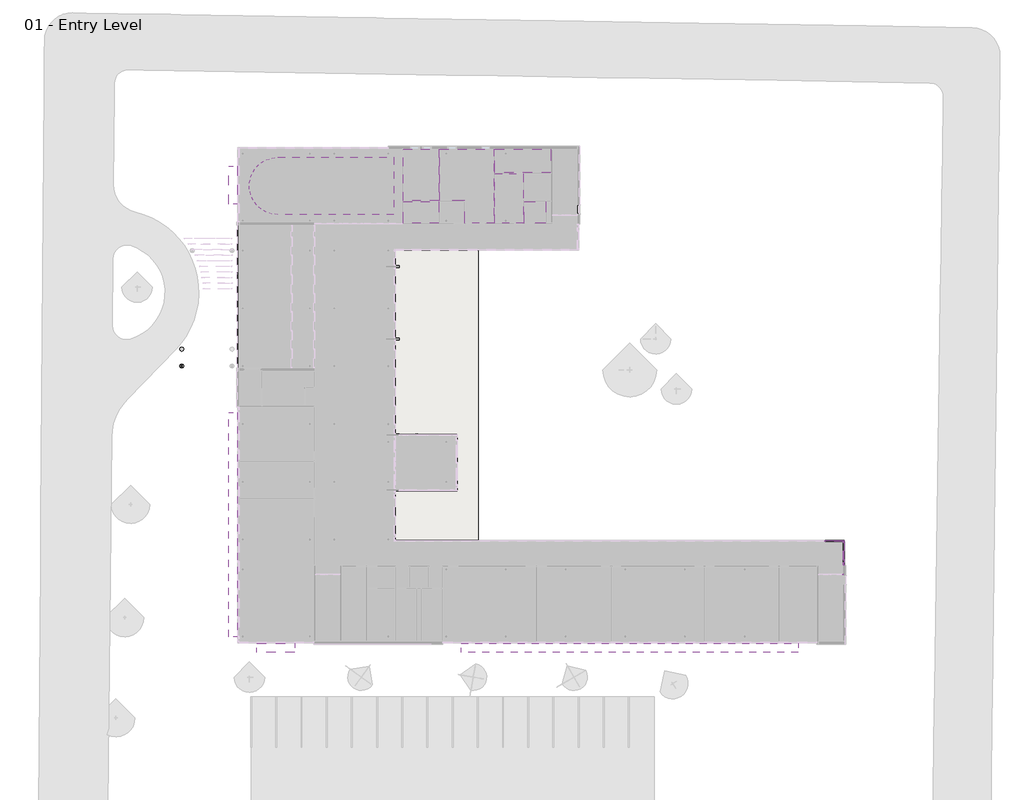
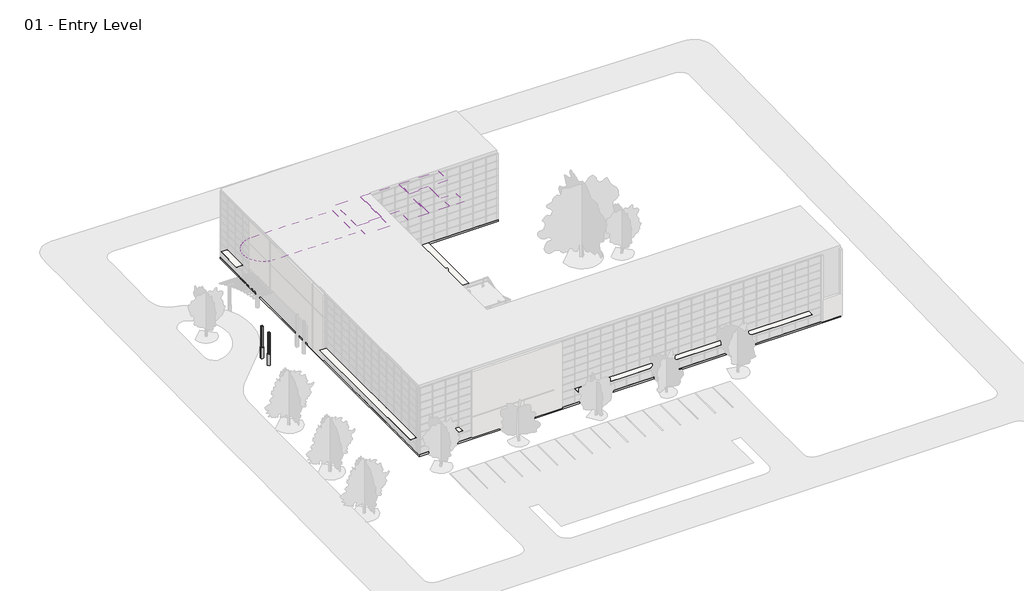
# One storey, part 32 of 34: 68 members, 27 plates, 7 coverings, 6 slabs, 4 columns.
"""IFC4 building model written with IfcOpenShell, lengths in millimetres."""

from ifc_helpers import new_model, si_unit, point, frame, frame_2d, origin, place, context, project, spatial, polyline, circle_curve, trimmed, segment, composite_curve, outline, extrude, transform, mapped, element, save
from components import column_5a4f3ead, member_6230916f, member_2b49869a, member_75074519, member_391b434c, member_81de2198, member_4eae0b13, member_9822c4e5, member_b50b2218, member_c327c56d, system_panel_glazed_d0ecad2d, system_panel_glazed_85a31dd6, system_panel_glazed_01db37db, system_panel_glazed_0a464ab8

model = new_model("IFC4")

# Units and contexts
model_context = context("Model", 3, world=origin())
ifc_project = project(units=[si_unit("LENGTHUNIT", "METRE", prefix="MILLI")], contexts=[model_context])

# Site, building, storey
site = spatial("IfcSite", under=ifc_project)
building = spatial("IfcBuilding", under=site)
storey = spatial("IfcBuildingStorey", under=building, Name="01 - Entry Level", Elevation=0.0)

# Columns
placement = place(None, origin())
column_shape = column_5a4f3ead(model_context)
element("IfcColumn", 1, ObjectType="Concrete-Round-Column1 : 18\"", at=placement, inside=storey, context=model_context, shape_type="MappedRepresentation", body=[
    mapped(column_shape, transform((-6018.8792524, 31909.0364163, 0.0), x_axis=(1.0, 0.0, 0.0), y_axis=(0.0, 1.0, 0.0), z_axis=(0.0, 0.0, 1.0))),
])
element("IfcColumn", 2, ObjectType="Concrete-Round-Column1 : 18\"", at=placement, inside=storey, context=model_context, shape_type="MappedRepresentation", body=[
    mapped(column_shape, transform((-6018.8792524, 30064.0, 0.0), x_axis=(1.0, 0.0, 0.0), y_axis=(0.0, 1.0, 0.0), z_axis=(0.0, 0.0, 1.0))),
])
element("IfcColumn", 3, ObjectType="W-Wide Flange-Column : W10X49", at=placement, inside=storey, context=model_context, shape_type="SweptSolid", body=[
    extrude(outline(composite_curve([segment(polyline([(-5891.8792524, 30190.7519531), (-5891.8792524, 30176.5636719), (-5997.001518, 30176.5636719)]), True, "CONTINUOUS"), segment(trimmed(circle_curve(frame_2d((-5997.001518, 30159.0019531)), 17.5617187), [point((-5997.001518, 30176.5636719))], [point((-6014.5632367, 30159.0019531))], True, "CARTESIAN"), True, "CONTINUOUS"), segment(polyline([(-6014.5632367, 30159.0019531), (-6014.5632367, 29968.9980469)]), True, "CONTINUOUS"), segment(trimmed(circle_curve(frame_2d((-5997.001518, 29968.9980469)), 17.5617188), [point((-6014.5632367, 29968.9980469))], [point((-5997.001518, 29951.4363281))], True, "CARTESIAN"), True, "CONTINUOUS"), segment(polyline([(-5997.001518, 29951.4363281), (-5891.8792524, 29951.4363281), (-5891.8792524, 29937.2480469), (-6145.8792524, 29937.2480469), (-6145.8792524, 29951.4363281), (-6040.7569867, 29951.4363281)]), True, "CONTINUOUS"), segment(trimmed(circle_curve(frame_2d((-6040.7569867, 29968.9980469)), 17.5617188), [point((-6040.7569867, 29951.4363281))], [point((-6023.195268, 29968.9980469))], True, "CARTESIAN"), True, "CONTINUOUS"), segment(polyline([(-6023.195268, 29968.9980469), (-6023.195268, 30159.0019531)]), True, "CONTINUOUS"), segment(trimmed(circle_curve(frame_2d((-6040.7569867, 30159.0019531)), 17.5617188), [point((-6023.195268, 30159.0019531))], [point((-6040.7569867, 30176.5636719))], True, "CARTESIAN"), True, "CONTINUOUS"), segment(polyline([(-6040.7569867, 30176.5636719), (-6145.8792524, 30176.5636719), (-6145.8792524, 30190.7519531), (-5891.8792524, 30190.7519531)]), True, "CONTINUOUS")], self_intersect=False)), frame((0.0, 0.0, 609.6), z_axis=(0.0, 0.0, 1.0), x_axis=(1.0, 0.0, 0.0)), (0.0, 0.0, 1.0), 3489.5619178),
])
element("IfcColumn", 4, ObjectType="W-Wide Flange-Column : W10X49", at=placement, inside=storey, context=model_context, shape_type="SweptSolid", body=[
    extrude(outline(composite_curve([segment(polyline([(-5891.8792524, 32035.7883694), (-5891.8792524, 32021.6000882), (-5997.001518, 32021.6000882)]), True, "CONTINUOUS"), segment(trimmed(circle_curve(frame_2d((-5997.001518, 32004.0383694)), 17.5617187), [point((-5997.001518, 32021.6000882))], [point((-6014.5632367, 32004.0383694))], True, "CARTESIAN"), True, "CONTINUOUS"), segment(polyline([(-6014.5632367, 32004.0383694), (-6014.5632367, 31814.0344632)]), True, "CONTINUOUS"), segment(trimmed(circle_curve(frame_2d((-5997.001518, 31814.0344632)), 17.5617188), [point((-6014.5632367, 31814.0344632))], [point((-5997.001518, 31796.4727444))], True, "CARTESIAN"), True, "CONTINUOUS"), segment(polyline([(-5997.001518, 31796.4727444), (-5891.8792524, 31796.4727444), (-5891.8792524, 31782.2844632), (-6145.8792524, 31782.2844632), (-6145.8792524, 31796.4727444), (-6040.7569867, 31796.4727444)]), True, "CONTINUOUS"), segment(trimmed(circle_curve(frame_2d((-6040.7569867, 31814.0344632)), 17.5617188), [point((-6040.7569867, 31796.4727444))], [point((-6023.195268, 31814.0344632))], True, "CARTESIAN"), True, "CONTINUOUS"), segment(polyline([(-6023.195268, 31814.0344632), (-6023.195268, 32004.0383694)]), True, "CONTINUOUS"), segment(trimmed(circle_curve(frame_2d((-6040.7569867, 32004.0383694)), 17.5617188), [point((-6023.195268, 32004.0383694))], [point((-6040.7569867, 32021.6000882))], True, "CARTESIAN"), True, "CONTINUOUS"), segment(polyline([(-6040.7569867, 32021.6000882), (-6145.8792524, 32021.6000882), (-6145.8792524, 32035.7883694), (-5891.8792524, 32035.7883694)]), True, "CONTINUOUS")], self_intersect=False)), frame((0.0, 0.0, 609.6), z_axis=(0.0, 0.0, 1.0), x_axis=(1.0, 0.0, 0.0)), (0.0, 0.0, 1.0), 3433.4391371),
])

# Coverings
element("IfcCovering", 5, ObjectType="2' x 2' ACT System", at=placement, inside=storey, context=model_context, shape_type="SweptSolid", body=[
    extrude(outline(polyline([(22086.2207476, 48110.7), (22086.2207476, 53724.1), (27979.0207476, 53724.1), (27979.0207476, 45672.3), (24829.4207476, 45672.3), (24829.4207476, 48110.7), (22086.2207476, 48110.7)])), frame((0.0, 0.0, 2438.4), z_axis=(0.0, 0.0, 1.0), x_axis=(1.0, 0.0, 0.0)), (0.0, 0.0, 1.0), 57.15),
])
element("IfcCovering", 6, ObjectType="2' x 2' ACT System", at=placement, inside=storey, context=model_context, shape_type="SweptSolid", body=[
    extrude(outline(polyline([(31192.1207476, 45672.3), (28106.0207476, 45672.3), (28106.0207476, 51019.0), (31192.1207476, 51019.0), (31192.1207476, 45672.3)])), frame((0.0, 0.0, 2438.4), z_axis=(0.0, 0.0, 1.0), x_axis=(1.0, 0.0, 0.0)), (0.0, 0.0, 1.0), 57.15),
])
element("IfcCovering", 7, ObjectType="2' x 2' ACT System", at=placement, inside=storey, context=model_context, shape_type="SweptSolid", body=[
    extrude(outline(polyline([(28106.0207476, 51146.0), (28106.0207476, 53724.1), (34202.0207476, 53724.1), (34202.0207476, 51146.0), (28106.0207476, 51146.0)])), frame((0.0, 0.0, 2438.4), z_axis=(0.0, 0.0, 1.0), x_axis=(1.0, 0.0, 0.0)), (0.0, 0.0, 1.0), 57.15),
])
element("IfcCovering", 8, ObjectType="2' x 2' ACT System", at=placement, inside=storey, context=model_context, shape_type="SweptSolid", body=[
    extrude(outline(polyline([(33630.5207476, 47983.7), (33630.5207476, 45672.3), (31319.1207476, 45672.3), (31319.1207476, 47983.7), (33630.5207476, 47983.7)])), frame((0.0, 0.0, 2438.4), z_axis=(0.0, 0.0, 1.0), x_axis=(1.0, 0.0, 0.0)), (0.0, 0.0, 1.0), 57.15),
])
element("IfcCovering", 9, ObjectType="2' x 2' ACT System", at=placement, inside=storey, context=model_context, shape_type="SweptSolid", body=[
    extrude(outline(composite_curve([segment(polyline([(4458.6207476, 52809.7), (17082.4207476, 52809.7), (17082.4207476, 46586.7), (4458.6207476, 46586.7)]), True, "CONTINUOUS"), segment(trimmed(circle_curve(frame_2d((4458.6207476, 49698.2)), 3111.5), [point((4458.6207476, 46586.7))], [point((4458.6207476, 52809.7))], False, "CARTESIAN"), True, "CONTINUOUS")], self_intersect=False)), frame((0.0, 0.0, 2438.4), z_axis=(0.0, 0.0, 1.0), x_axis=(1.0, 0.0, 0.0)), (0.0, 0.0, 1.0), 57.15),
])
element("IfcCovering", 10, ObjectType="GWB on Mtl. Stud", at=placement, inside=storey, context=model_context, shape_type="SweptSolid", body=[
    extrude(outline(polyline([(18123.8207476, 48110.7), (18123.8207476, 53724.1), (21959.2207476, 53724.1), (21959.2207476, 48110.7), (18123.8207476, 48110.7)])), frame((0.0, 0.0, 2438.4), z_axis=(0.0, 0.0, 1.0), x_axis=(1.0, 0.0, 0.0)), (0.0, 0.0, 1.0), 107.95),
])
element("IfcCovering", 11, ObjectType="GWB on Mtl. Stud", at=placement, inside=storey, context=model_context, shape_type="SweptSolid", body=[
    extrude(outline(polyline([(21959.2207476, 45672.3), (18123.8207476, 45672.3), (18123.8207476, 47983.7), (21959.2207476, 47983.7), (21959.2207476, 45672.3)])), frame((0.0, 0.0, 2438.4), z_axis=(0.0, 0.0, 1.0), x_axis=(1.0, 0.0, 0.0)), (0.0, 0.0, 1.0), 107.95),
])

# Members
member_shape = member_6230916f(model_context)
element("IfcMember", 12, ObjectType="L Corner Mullion : 5\" x 5\" Corner", at=placement, inside=storey, context=model_context, shape_type="MappedRepresentation", body=[
    mapped(member_shape, transform((66104.4207476, 11001.3, 0.0), x_axis=(0.0, 1.0, 0.0), y_axis=(1.0, 0.0, 0.0), z_axis=(0.0, 0.0, -1.0))),
])
element("IfcMember", 13, ObjectType="L Corner Mullion : 5\" x 5\" Corner", at=placement, inside=storey, context=model_context, shape_type="MappedRepresentation", body=[
    mapped(member_shape, transform((66104.4207476, 11001.3, 1219.2), x_axis=(0.0, 1.0, 0.0), y_axis=(1.0, 0.0, 0.0), z_axis=(0.0, 0.0, -1.0))),
])
element("IfcMember", 14, ObjectType="L Corner Mullion : 5\" x 5\" Corner", at=placement, inside=storey, context=model_context, shape_type="MappedRepresentation", body=[
    mapped(member_shape, transform((66104.4207476, 11001.3, 2438.4), x_axis=(0.0, 1.0, 0.0), y_axis=(1.0, 0.0, 0.0), z_axis=(0.0, 0.0, -1.0))),
])
element("IfcMember", 15, ObjectType="L Corner Mullion : 5\" x 5\" Corner", at=placement, inside=storey, context=model_context, shape_type="MappedRepresentation", body=[
    mapped(member_shape, transform((66104.4207476, 11001.3, 3657.6), x_axis=(0.0, 1.0, 0.0), y_axis=(1.0, 0.0, 0.0), z_axis=(0.0, 0.0, -1.0))),
])
element("IfcMember", 16, ObjectType="L Corner Mullion : 5\" x 5\" Corner", at=placement, inside=storey, context=model_context, shape_type="MappedRepresentation", body=[
    mapped(member_shape, transform((66104.4207476, 11001.3, 4876.8), x_axis=(0.0, 1.0, 0.0), y_axis=(1.0, 0.0, 0.0), z_axis=(0.0, 0.0, -1.0))),
])
element("IfcMember", 17, ObjectType="L Corner Mullion : 5\" x 5\" Corner", at=placement, inside=storey, context=model_context, shape_type="MappedRepresentation", body=[
    mapped(member_shape, transform((66104.4207476, 11001.3, 6096.0), x_axis=(0.0, 1.0, 0.0), y_axis=(1.0, 0.0, 0.0), z_axis=(0.0, 0.0, -1.0))),
])
element("IfcMember", 18, ObjectType="L Corner Mullion : 5\" x 5\" Corner", at=placement, inside=storey, context=model_context, shape_type="MappedRepresentation", body=[
    mapped(member_shape, transform((66104.4207476, 11001.3, 7315.2), x_axis=(0.0, 1.0, 0.0), y_axis=(1.0, 0.0, 0.0), z_axis=(0.0, 0.0, -1.0))),
])
element("IfcMember", 19, ObjectType="L Corner Mullion : 5\" x 5\" Corner", at=placement, inside=storey, context=model_context, shape_type="MappedRepresentation", body=[
    mapped(member_shape, transform((66104.4207476, 11001.3, 8534.4), x_axis=(0.0, 1.0, 0.0), y_axis=(1.0, 0.0, 0.0), z_axis=(0.0, 0.0, -1.0))),
])
element("IfcMember", 20, ObjectType="L Corner Mullion : 5\" x 5\" Corner", at=placement, inside=storey, context=model_context, shape_type="MappedRepresentation", body=[
    mapped(member_shape, transform((66104.4207476, 11001.3, 9753.6), x_axis=(0.0, 1.0, 0.0), y_axis=(1.0, 0.0, 0.0), z_axis=(0.0, 0.0, -1.0))),
])
member_2_shape = member_2b49869a(model_context)
element("IfcMember", 21, ObjectType="Rectangular Mullion : 2.5\" x 5\" rectangular", at=placement, inside=storey, context=model_context, shape_type="MappedRepresentation", body=[
    mapped(member_2_shape, transform((64072.4207476, 11001.3, 9753.6), x_axis=(-1.0, 0.0, 0.0), y_axis=(0.0, 1.0, 0.0), z_axis=(0.0, 0.0, -1.0))),
])
element("IfcMember", 22, ObjectType="Rectangular Mullion : 2.5\" x 5\" rectangular", at=placement, inside=storey, context=model_context, shape_type="MappedRepresentation", body=[
    mapped(member_2_shape, transform((66104.4207476, 8969.3, 9753.6), x_axis=(0.0, 1.0, 0.0), y_axis=(1.0, 0.0, 0.0), z_axis=(0.0, 0.0, -1.0))),
])
member_3_shape = member_75074519(model_context)
element("IfcMember", 23, ObjectType="Rectangular Mullion : 2.5\" x 5\" rectangular", at=placement, inside=storey, context=model_context, shape_type="MappedRepresentation", body=[
    mapped(member_3_shape, transform((66104.4207476, 8334.3, 10972.8), x_axis=(0.0, -1.0, 0.0), y_axis=(1.0, 0.0, 0.0), z_axis=(0.0, 0.0, 1.0))),
])
member_4_shape = member_391b434c(model_context)
element("IfcMember", 24, ObjectType="Rectangular Mullion : 2.5\" x 5\" rectangular", at=placement, inside=storey, context=model_context, shape_type="MappedRepresentation", body=[
    mapped(member_4_shape, transform((64040.6707476, 11001.3, 0.0), x_axis=(0.0, 0.0, -1.0), y_axis=(0.0, 1.0, 0.0), z_axis=(1.0, 0.0, 0.0))),
])
element("IfcMember", 25, ObjectType="Rectangular Mullion : 2.5\" x 5\" rectangular", at=placement, inside=storey, context=model_context, shape_type="MappedRepresentation", body=[
    mapped(member_2_shape, transform((64072.4207476, 11001.3, 0.0), x_axis=(-1.0, 0.0, 0.0), y_axis=(0.0, 1.0, 0.0), z_axis=(0.0, 0.0, -1.0))),
])
element("IfcMember", 26, ObjectType="Rectangular Mullion : 2.5\" x 5\" rectangular", at=placement, inside=storey, context=model_context, shape_type="MappedRepresentation", body=[
    mapped(member_2_shape, transform((66104.4207476, 8969.3, 0.0), x_axis=(0.0, 1.0, 0.0), y_axis=(1.0, 0.0, 0.0), z_axis=(0.0, 0.0, -1.0))),
])
element("IfcMember", 27, ObjectType="Rectangular Mullion : 2.5\" x 5\" rectangular", at=placement, inside=storey, context=model_context, shape_type="MappedRepresentation", body=[
    mapped(member_2_shape, transform((64072.4207476, 11001.3, 1219.2), x_axis=(-1.0, 0.0, 0.0), y_axis=(0.0, 1.0, 0.0), z_axis=(0.0, 0.0, -1.0))),
])
element("IfcMember", 28, ObjectType="Rectangular Mullion : 2.5\" x 5\" rectangular", at=placement, inside=storey, context=model_context, shape_type="MappedRepresentation", body=[
    mapped(member_2_shape, transform((64072.4207476, 11001.3, 2438.4), x_axis=(-1.0, 0.0, 0.0), y_axis=(0.0, 1.0, 0.0), z_axis=(0.0, 0.0, -1.0))),
])
element("IfcMember", 29, ObjectType="Rectangular Mullion : 2.5\" x 5\" rectangular", at=placement, inside=storey, context=model_context, shape_type="MappedRepresentation", body=[
    mapped(member_2_shape, transform((64072.4207476, 11001.3, 3657.6), x_axis=(-1.0, 0.0, 0.0), y_axis=(0.0, 1.0, 0.0), z_axis=(0.0, 0.0, -1.0))),
])
element("IfcMember", 30, ObjectType="Rectangular Mullion : 2.5\" x 5\" rectangular", at=placement, inside=storey, context=model_context, shape_type="MappedRepresentation", body=[
    mapped(member_2_shape, transform((64072.4207476, 11001.3, 4876.8), x_axis=(-1.0, 0.0, 0.0), y_axis=(0.0, 1.0, 0.0), z_axis=(0.0, 0.0, -1.0))),
])
element("IfcMember", 31, ObjectType="Rectangular Mullion : 2.5\" x 5\" rectangular", at=placement, inside=storey, context=model_context, shape_type="MappedRepresentation", body=[
    mapped(member_2_shape, transform((64072.4207476, 11001.3, 6096.0), x_axis=(-1.0, 0.0, 0.0), y_axis=(0.0, 1.0, 0.0), z_axis=(0.0, 0.0, -1.0))),
])
element("IfcMember", 32, ObjectType="Rectangular Mullion : 2.5\" x 5\" rectangular", at=placement, inside=storey, context=model_context, shape_type="MappedRepresentation", body=[
    mapped(member_2_shape, transform((64072.4207476, 11001.3, 7315.2), x_axis=(-1.0, 0.0, 0.0), y_axis=(0.0, 1.0, 0.0), z_axis=(0.0, 0.0, -1.0))),
])
element("IfcMember", 33, ObjectType="Rectangular Mullion : 2.5\" x 5\" rectangular", at=placement, inside=storey, context=model_context, shape_type="MappedRepresentation", body=[
    mapped(member_2_shape, transform((64072.4207476, 11001.3, 8534.4), x_axis=(-1.0, 0.0, 0.0), y_axis=(0.0, 1.0, 0.0), z_axis=(0.0, 0.0, -1.0))),
])
element("IfcMember", 34, ObjectType="Rectangular Mullion : 2.5\" x 5\" rectangular", at=placement, inside=storey, context=model_context, shape_type="MappedRepresentation", body=[
    mapped(member_2_shape, transform((66104.4207476, 8969.3, 1219.2), x_axis=(0.0, 1.0, 0.0), y_axis=(1.0, 0.0, 0.0), z_axis=(0.0, 0.0, -1.0))),
])
element("IfcMember", 35, ObjectType="Rectangular Mullion : 2.5\" x 5\" rectangular", at=placement, inside=storey, context=model_context, shape_type="MappedRepresentation", body=[
    mapped(member_2_shape, transform((66104.4207476, 8969.3, 2438.4), x_axis=(0.0, 1.0, 0.0), y_axis=(1.0, 0.0, 0.0), z_axis=(0.0, 0.0, -1.0))),
])
element("IfcMember", 36, ObjectType="Rectangular Mullion : 2.5\" x 5\" rectangular", at=placement, inside=storey, context=model_context, shape_type="MappedRepresentation", body=[
    mapped(member_2_shape, transform((66104.4207476, 8969.3, 3657.6), x_axis=(0.0, 1.0, 0.0), y_axis=(1.0, 0.0, 0.0), z_axis=(0.0, 0.0, -1.0))),
])
element("IfcMember", 37, ObjectType="Rectangular Mullion : 2.5\" x 5\" rectangular", at=placement, inside=storey, context=model_context, shape_type="MappedRepresentation", body=[
    mapped(member_2_shape, transform((66104.4207476, 8969.3, 4876.8), x_axis=(0.0, 1.0, 0.0), y_axis=(1.0, 0.0, 0.0), z_axis=(0.0, 0.0, -1.0))),
])
element("IfcMember", 38, ObjectType="Rectangular Mullion : 2.5\" x 5\" rectangular", at=placement, inside=storey, context=model_context, shape_type="MappedRepresentation", body=[
    mapped(member_2_shape, transform((66104.4207476, 8969.3, 6096.0), x_axis=(0.0, 1.0, 0.0), y_axis=(1.0, 0.0, 0.0), z_axis=(0.0, 0.0, -1.0))),
])
element("IfcMember", 39, ObjectType="Rectangular Mullion : 2.5\" x 5\" rectangular", at=placement, inside=storey, context=model_context, shape_type="MappedRepresentation", body=[
    mapped(member_2_shape, transform((66104.4207476, 8969.3, 7315.2), x_axis=(0.0, 1.0, 0.0), y_axis=(1.0, 0.0, 0.0), z_axis=(0.0, 0.0, -1.0))),
])
element("IfcMember", 40, ObjectType="Rectangular Mullion : 2.5\" x 5\" rectangular", at=placement, inside=storey, context=model_context, shape_type="MappedRepresentation", body=[
    mapped(member_2_shape, transform((66104.4207476, 8969.3, 8534.4), x_axis=(0.0, 1.0, 0.0), y_axis=(1.0, 0.0, 0.0), z_axis=(0.0, 0.0, -1.0))),
])
member_5_shape = member_81de2198(model_context)
element("IfcMember", 41, ObjectType="Rectangular Mullion : 2.5\" x 5\" rectangular", at=placement, inside=storey, context=model_context, shape_type="MappedRepresentation", body=[
    mapped(member_5_shape, transform((66104.4207476, 8937.55, 10972.8), x_axis=(0.0, 0.0, 1.0), y_axis=(1.0, 0.0, 0.0), z_axis=(0.0, 1.0, 0.0))),
])
element("IfcMember", 42, ObjectType="Rectangular Mullion : 2.5\" x 5\" rectangular", at=placement, inside=storey, context=model_context, shape_type="MappedRepresentation", body=[
    mapped(member_5_shape, transform((66104.4207476, 8397.8, 0.0), x_axis=(0.0, 0.0, -1.0), y_axis=(1.0, 0.0, 0.0), z_axis=(0.0, -1.0, 0.0))),
])
member_6_shape = member_4eae0b13(model_context)
element("IfcMember", 43, ObjectType="Rectangular Mullion : 2.5\" x 5\" rectangular", at=placement, inside=storey, context=model_context, shape_type="MappedRepresentation", body=[
    mapped(member_6_shape, transform((66104.4207476, 8937.55, 1219.2), x_axis=(0.0, 0.0, 1.0), y_axis=(1.0, 0.0, 0.0), z_axis=(0.0, 1.0, 0.0))),
])
element("IfcMember", 44, ObjectType="Rectangular Mullion : 2.5\" x 5\" rectangular", at=placement, inside=storey, context=model_context, shape_type="MappedRepresentation", body=[
    mapped(member_6_shape, transform((66104.4207476, 8937.55, 2438.4), x_axis=(0.0, 0.0, 1.0), y_axis=(1.0, 0.0, 0.0), z_axis=(0.0, 1.0, 0.0))),
])
element("IfcMember", 45, ObjectType="Rectangular Mullion : 2.5\" x 5\" rectangular", at=placement, inside=storey, context=model_context, shape_type="MappedRepresentation", body=[
    mapped(member_6_shape, transform((66104.4207476, 8937.55, 3657.6), x_axis=(0.0, 0.0, 1.0), y_axis=(1.0, 0.0, 0.0), z_axis=(0.0, 1.0, 0.0))),
])
element("IfcMember", 46, ObjectType="Rectangular Mullion : 2.5\" x 5\" rectangular", at=placement, inside=storey, context=model_context, shape_type="MappedRepresentation", body=[
    mapped(member_6_shape, transform((66104.4207476, 8937.55, 4876.8), x_axis=(0.0, 0.0, 1.0), y_axis=(1.0, 0.0, 0.0), z_axis=(0.0, 1.0, 0.0))),
])
element("IfcMember", 47, ObjectType="Rectangular Mullion : 2.5\" x 5\" rectangular", at=placement, inside=storey, context=model_context, shape_type="MappedRepresentation", body=[
    mapped(member_6_shape, transform((66104.4207476, 8937.55, 6096.0), x_axis=(0.0, 0.0, 1.0), y_axis=(1.0, 0.0, 0.0), z_axis=(0.0, 1.0, 0.0))),
])
element("IfcMember", 48, ObjectType="Rectangular Mullion : 2.5\" x 5\" rectangular", at=placement, inside=storey, context=model_context, shape_type="MappedRepresentation", body=[
    mapped(member_6_shape, transform((66104.4207476, 8937.55, 7315.2), x_axis=(0.0, 0.0, 1.0), y_axis=(1.0, 0.0, 0.0), z_axis=(0.0, 1.0, 0.0))),
])
element("IfcMember", 49, ObjectType="Rectangular Mullion : 2.5\" x 5\" rectangular", at=placement, inside=storey, context=model_context, shape_type="MappedRepresentation", body=[
    mapped(member_6_shape, transform((66104.4207476, 8937.55, 8534.4), x_axis=(0.0, 0.0, 1.0), y_axis=(1.0, 0.0, 0.0), z_axis=(0.0, 1.0, 0.0))),
])
element("IfcMember", 50, ObjectType="Rectangular Mullion : 2.5\" x 5\" rectangular", at=placement, inside=storey, context=model_context, shape_type="MappedRepresentation", body=[
    mapped(member_6_shape, transform((66104.4207476, 8937.55, 9753.6), x_axis=(0.0, 0.0, 1.0), y_axis=(1.0, 0.0, 0.0), z_axis=(0.0, 1.0, 0.0))),
])
element("IfcMember", 51, ObjectType="Rectangular Mullion : 2.5\" x 5\" rectangular", at=placement, inside=storey, context=model_context, shape_type="MappedRepresentation", body=[
    mapped(member_3_shape, transform((66104.4207476, 8334.3, 1219.2), x_axis=(0.0, -1.0, 0.0), y_axis=(1.0, 0.0, 0.0), z_axis=(0.0, 0.0, 1.0))),
])
element("IfcMember", 52, ObjectType="Rectangular Mullion : 2.5\" x 5\" rectangular", at=placement, inside=storey, context=model_context, shape_type="MappedRepresentation", body=[
    mapped(member_3_shape, transform((66104.4207476, 8334.3, 2438.4), x_axis=(0.0, -1.0, 0.0), y_axis=(1.0, 0.0, 0.0), z_axis=(0.0, 0.0, 1.0))),
])
element("IfcMember", 53, ObjectType="Rectangular Mullion : 2.5\" x 5\" rectangular", at=placement, inside=storey, context=model_context, shape_type="MappedRepresentation", body=[
    mapped(member_3_shape, transform((66104.4207476, 8334.3, 3657.6), x_axis=(0.0, -1.0, 0.0), y_axis=(1.0, 0.0, 0.0), z_axis=(0.0, 0.0, 1.0))),
])
element("IfcMember", 54, ObjectType="Rectangular Mullion : 2.5\" x 5\" rectangular", at=placement, inside=storey, context=model_context, shape_type="MappedRepresentation", body=[
    mapped(member_3_shape, transform((66104.4207476, 8334.3, 4876.8), x_axis=(0.0, -1.0, 0.0), y_axis=(1.0, 0.0, 0.0), z_axis=(0.0, 0.0, 1.0))),
])
element("IfcMember", 55, ObjectType="Rectangular Mullion : 2.5\" x 5\" rectangular", at=placement, inside=storey, context=model_context, shape_type="MappedRepresentation", body=[
    mapped(member_3_shape, transform((66104.4207476, 8334.3, 6096.0), x_axis=(0.0, -1.0, 0.0), y_axis=(1.0, 0.0, 0.0), z_axis=(0.0, 0.0, 1.0))),
])
element("IfcMember", 56, ObjectType="Rectangular Mullion : 2.5\" x 5\" rectangular", at=placement, inside=storey, context=model_context, shape_type="MappedRepresentation", body=[
    mapped(member_3_shape, transform((66104.4207476, 8334.3, 7315.2), x_axis=(0.0, -1.0, 0.0), y_axis=(1.0, 0.0, 0.0), z_axis=(0.0, 0.0, 1.0))),
])
element("IfcMember", 57, ObjectType="Rectangular Mullion : 2.5\" x 5\" rectangular", at=placement, inside=storey, context=model_context, shape_type="MappedRepresentation", body=[
    mapped(member_3_shape, transform((66104.4207476, 8334.3, 8534.4), x_axis=(0.0, -1.0, 0.0), y_axis=(1.0, 0.0, 0.0), z_axis=(0.0, 0.0, 1.0))),
])
element("IfcMember", 58, ObjectType="Rectangular Mullion : 2.5\" x 5\" rectangular", at=placement, inside=storey, context=model_context, shape_type="MappedRepresentation", body=[
    mapped(member_3_shape, transform((66104.4207476, 8334.3, 9753.6), x_axis=(0.0, -1.0, 0.0), y_axis=(1.0, 0.0, 0.0), z_axis=(0.0, 0.0, 1.0))),
])
member_7_shape = member_9822c4e5(model_context)
element("IfcMember", 59, ObjectType="Rectangular Mullion : 2.5\" x 5\" rectangular", at=placement, inside=storey, context=model_context, shape_type="MappedRepresentation", body=[
    mapped(member_7_shape, transform((66104.4207476, 10874.3, 10972.8), x_axis=(0.0, 0.0, 1.0), y_axis=(1.0, 0.0, 0.0), z_axis=(0.0, 1.0, 0.0))),
])
element("IfcMember", 60, ObjectType="Rectangular Mullion : 2.5\" x 5\" rectangular", at=placement, inside=storey, context=model_context, shape_type="MappedRepresentation", body=[
    mapped(member_7_shape, transform((64104.1707476, 11001.3, 10972.8), x_axis=(0.0, 0.0, 1.0), y_axis=(0.0, 1.0, 0.0), z_axis=(-1.0, 0.0, 0.0))),
])
element("IfcMember", 61, ObjectType="Rectangular Mullion : 2.5\" x 5\" rectangular", at=placement, inside=storey, context=model_context, shape_type="MappedRepresentation", body=[
    mapped(member_7_shape, transform((65977.4207476, 11001.3, 0.0), x_axis=(0.0, 0.0, -1.0), y_axis=(0.0, 1.0, 0.0), z_axis=(1.0, 0.0, 0.0))),
])
element("IfcMember", 62, ObjectType="Rectangular Mullion : 2.5\" x 5\" rectangular", at=placement, inside=storey, context=model_context, shape_type="MappedRepresentation", body=[
    mapped(member_7_shape, transform((66104.4207476, 9001.05, 0.0), x_axis=(0.0, 0.0, -1.0), y_axis=(1.0, 0.0, 0.0), z_axis=(0.0, -1.0, 0.0))),
])
member_8_shape = member_b50b2218(model_context)
element("IfcMember", 63, ObjectType="Rectangular Mullion : 2.5\" x 5\" rectangular", at=placement, inside=storey, context=model_context, shape_type="MappedRepresentation", body=[
    mapped(member_8_shape, transform((66104.4207476, 10874.3, 1219.2), x_axis=(0.0, 0.0, 1.0), y_axis=(1.0, 0.0, 0.0), z_axis=(0.0, 1.0, 0.0))),
])
element("IfcMember", 64, ObjectType="Rectangular Mullion : 2.5\" x 5\" rectangular", at=placement, inside=storey, context=model_context, shape_type="MappedRepresentation", body=[
    mapped(member_8_shape, transform((66104.4207476, 10874.3, 2438.4), x_axis=(0.0, 0.0, 1.0), y_axis=(1.0, 0.0, 0.0), z_axis=(0.0, 1.0, 0.0))),
])
element("IfcMember", 65, ObjectType="Rectangular Mullion : 2.5\" x 5\" rectangular", at=placement, inside=storey, context=model_context, shape_type="MappedRepresentation", body=[
    mapped(member_8_shape, transform((66104.4207476, 10874.3, 3657.6), x_axis=(0.0, 0.0, 1.0), y_axis=(1.0, 0.0, 0.0), z_axis=(0.0, 1.0, 0.0))),
])
element("IfcMember", 66, ObjectType="Rectangular Mullion : 2.5\" x 5\" rectangular", at=placement, inside=storey, context=model_context, shape_type="MappedRepresentation", body=[
    mapped(member_8_shape, transform((66104.4207476, 10874.3, 4876.8), x_axis=(0.0, 0.0, 1.0), y_axis=(1.0, 0.0, 0.0), z_axis=(0.0, 1.0, 0.0))),
])
element("IfcMember", 67, ObjectType="Rectangular Mullion : 2.5\" x 5\" rectangular", at=placement, inside=storey, context=model_context, shape_type="MappedRepresentation", body=[
    mapped(member_8_shape, transform((66104.4207476, 10874.3, 6096.0), x_axis=(0.0, 0.0, 1.0), y_axis=(1.0, 0.0, 0.0), z_axis=(0.0, 1.0, 0.0))),
])
element("IfcMember", 68, ObjectType="Rectangular Mullion : 2.5\" x 5\" rectangular", at=placement, inside=storey, context=model_context, shape_type="MappedRepresentation", body=[
    mapped(member_8_shape, transform((66104.4207476, 10874.3, 7315.2), x_axis=(0.0, 0.0, 1.0), y_axis=(1.0, 0.0, 0.0), z_axis=(0.0, 1.0, 0.0))),
])
element("IfcMember", 69, ObjectType="Rectangular Mullion : 2.5\" x 5\" rectangular", at=placement, inside=storey, context=model_context, shape_type="MappedRepresentation", body=[
    mapped(member_8_shape, transform((66104.4207476, 10874.3, 8534.4), x_axis=(0.0, 0.0, 1.0), y_axis=(1.0, 0.0, 0.0), z_axis=(0.0, 1.0, 0.0))),
])
element("IfcMember", 70, ObjectType="Rectangular Mullion : 2.5\" x 5\" rectangular", at=placement, inside=storey, context=model_context, shape_type="MappedRepresentation", body=[
    mapped(member_8_shape, transform((66104.4207476, 10874.3, 9753.6), x_axis=(0.0, 0.0, 1.0), y_axis=(1.0, 0.0, 0.0), z_axis=(0.0, 1.0, 0.0))),
])
element("IfcMember", 71, ObjectType="Rectangular Mullion : 2.5\" x 5\" rectangular", at=placement, inside=storey, context=model_context, shape_type="MappedRepresentation", body=[
    mapped(member_8_shape, transform((64104.1707476, 11001.3, 1219.2), x_axis=(0.0, 0.0, 1.0), y_axis=(0.0, 1.0, 0.0), z_axis=(-1.0, 0.0, 0.0))),
])
element("IfcMember", 72, ObjectType="Rectangular Mullion : 2.5\" x 5\" rectangular", at=placement, inside=storey, context=model_context, shape_type="MappedRepresentation", body=[
    mapped(member_8_shape, transform((64104.1707476, 11001.3, 2438.4), x_axis=(0.0, 0.0, 1.0), y_axis=(0.0, 1.0, 0.0), z_axis=(-1.0, 0.0, 0.0))),
])
element("IfcMember", 73, ObjectType="Rectangular Mullion : 2.5\" x 5\" rectangular", at=placement, inside=storey, context=model_context, shape_type="MappedRepresentation", body=[
    mapped(member_8_shape, transform((64104.1707476, 11001.3, 3657.6), x_axis=(0.0, 0.0, 1.0), y_axis=(0.0, 1.0, 0.0), z_axis=(-1.0, 0.0, 0.0))),
])
element("IfcMember", 74, ObjectType="Rectangular Mullion : 2.5\" x 5\" rectangular", at=placement, inside=storey, context=model_context, shape_type="MappedRepresentation", body=[
    mapped(member_8_shape, transform((64104.1707476, 11001.3, 4876.8), x_axis=(0.0, 0.0, 1.0), y_axis=(0.0, 1.0, 0.0), z_axis=(-1.0, 0.0, 0.0))),
])
element("IfcMember", 75, ObjectType="Rectangular Mullion : 2.5\" x 5\" rectangular", at=placement, inside=storey, context=model_context, shape_type="MappedRepresentation", body=[
    mapped(member_8_shape, transform((64104.1707476, 11001.3, 6096.0), x_axis=(0.0, 0.0, 1.0), y_axis=(0.0, 1.0, 0.0), z_axis=(-1.0, 0.0, 0.0))),
])
element("IfcMember", 76, ObjectType="Rectangular Mullion : 2.5\" x 5\" rectangular", at=placement, inside=storey, context=model_context, shape_type="MappedRepresentation", body=[
    mapped(member_8_shape, transform((64104.1707476, 11001.3, 7315.2), x_axis=(0.0, 0.0, 1.0), y_axis=(0.0, 1.0, 0.0), z_axis=(-1.0, 0.0, 0.0))),
])
element("IfcMember", 77, ObjectType="Rectangular Mullion : 2.5\" x 5\" rectangular", at=placement, inside=storey, context=model_context, shape_type="MappedRepresentation", body=[
    mapped(member_8_shape, transform((64104.1707476, 11001.3, 8534.4), x_axis=(0.0, 0.0, 1.0), y_axis=(0.0, 1.0, 0.0), z_axis=(-1.0, 0.0, 0.0))),
])
element("IfcMember", 78, ObjectType="Rectangular Mullion : 2.5\" x 5\" rectangular", at=placement, inside=storey, context=model_context, shape_type="MappedRepresentation", body=[
    mapped(member_8_shape, transform((64104.1707476, 11001.3, 9753.6), x_axis=(0.0, 0.0, 1.0), y_axis=(0.0, 1.0, 0.0), z_axis=(-1.0, 0.0, 0.0))),
])
member_9_shape = member_c327c56d(model_context)
element("IfcMember", 79, ObjectType="Rectangular Mullion : 2.5\" x 5\" rectangular", at=placement, inside=storey, context=model_context, shape_type="MappedRepresentation", body=[
    mapped(member_9_shape, transform((66055.2082476, 7356.4, 2165.35), x_axis=(1.0, 0.0, 0.0), y_axis=(0.0, -1.0, 0.0), z_axis=(0.0, 0.0, -1.0))),
])

# Plates
system_panel_glazed_shape = system_panel_glazed_d0ecad2d(model_context)
element("IfcPlate", 80, ObjectType="System Panel : Glazed", at=placement, inside=storey, context=model_context, shape_type="MappedRepresentation", body=[
    mapped(system_panel_glazed_shape, transform((66104.4207476, 8667.675, 63.5), x_axis=(0.0, 1.0, 0.0), y_axis=(-1.0, 0.0, 0.0), z_axis=(0.0, 0.0, 1.0))),
])
element("IfcPlate", 81, ObjectType="System Panel : Glazed", at=placement, inside=storey, context=model_context, shape_type="MappedRepresentation", body=[
    mapped(system_panel_glazed_shape, transform((66104.4207476, 8667.675, 9785.35), x_axis=(0.0, 1.0, 0.0), y_axis=(-1.0, 0.0, 0.0), z_axis=(0.0, 0.0, 1.0))),
])
system_panel_glazed_2_shape = system_panel_glazed_85a31dd6(model_context)
element("IfcPlate", 82, ObjectType="System Panel : Glazed", at=placement, inside=storey, context=model_context, shape_type="MappedRepresentation", body=[
    mapped(system_panel_glazed_2_shape, transform((66104.4207476, 8667.675, 1250.95), x_axis=(0.0, 1.0, 0.0), y_axis=(-1.0, 0.0, 0.0), z_axis=(0.0, 0.0, 1.0))),
])
element("IfcPlate", 83, ObjectType="System Panel : Glazed", at=placement, inside=storey, context=model_context, shape_type="MappedRepresentation", body=[
    mapped(system_panel_glazed_2_shape, transform((66104.4207476, 8667.675, 2470.15), x_axis=(0.0, 1.0, 0.0), y_axis=(-1.0, 0.0, 0.0), z_axis=(0.0, 0.0, 1.0))),
])
element("IfcPlate", 84, ObjectType="System Panel : Glazed", at=placement, inside=storey, context=model_context, shape_type="MappedRepresentation", body=[
    mapped(system_panel_glazed_2_shape, transform((66104.4207476, 8667.675, 3689.35), x_axis=(0.0, 1.0, 0.0), y_axis=(-1.0, 0.0, 0.0), z_axis=(0.0, 0.0, 1.0))),
])
element("IfcPlate", 85, ObjectType="System Panel : Glazed", at=placement, inside=storey, context=model_context, shape_type="MappedRepresentation", body=[
    mapped(system_panel_glazed_2_shape, transform((66104.4207476, 8667.675, 4908.55), x_axis=(0.0, 1.0, 0.0), y_axis=(-1.0, 0.0, 0.0), z_axis=(0.0, 0.0, 1.0))),
])
element("IfcPlate", 86, ObjectType="System Panel : Glazed", at=placement, inside=storey, context=model_context, shape_type="MappedRepresentation", body=[
    mapped(system_panel_glazed_2_shape, transform((66104.4207476, 8667.675, 6127.75), x_axis=(0.0, 1.0, 0.0), y_axis=(-1.0, 0.0, 0.0), z_axis=(0.0, 0.0, 1.0))),
])
element("IfcPlate", 87, ObjectType="System Panel : Glazed", at=placement, inside=storey, context=model_context, shape_type="MappedRepresentation", body=[
    mapped(system_panel_glazed_2_shape, transform((66104.4207476, 8667.675, 7346.95), x_axis=(0.0, 1.0, 0.0), y_axis=(-1.0, 0.0, 0.0), z_axis=(0.0, 0.0, 1.0))),
])
element("IfcPlate", 88, ObjectType="System Panel : Glazed", at=placement, inside=storey, context=model_context, shape_type="MappedRepresentation", body=[
    mapped(system_panel_glazed_2_shape, transform((66104.4207476, 8667.675, 8566.15), x_axis=(0.0, 1.0, 0.0), y_axis=(-1.0, 0.0, 0.0), z_axis=(0.0, 0.0, 1.0))),
])
system_panel_glazed_3_shape = system_panel_glazed_01db37db(model_context)
element("IfcPlate", 89, ObjectType="System Panel : Glazed", at=placement, inside=storey, context=model_context, shape_type="MappedRepresentation", body=[
    mapped(system_panel_glazed_3_shape, transform((65040.7957476, 11001.3, 63.5), x_axis=(-1.0, 0.0, 0.0), y_axis=(0.0, -1.0, 0.0), z_axis=(0.0, 0.0, 1.0))),
])
element("IfcPlate", 90, ObjectType="System Panel : Glazed", at=placement, inside=storey, context=model_context, shape_type="MappedRepresentation", body=[
    mapped(system_panel_glazed_3_shape, transform((65040.7957476, 11001.3, 9785.35), x_axis=(-1.0, 0.0, 0.0), y_axis=(0.0, -1.0, 0.0), z_axis=(0.0, 0.0, 1.0))),
])
element("IfcPlate", 91, ObjectType="System Panel : Glazed", at=placement, inside=storey, context=model_context, shape_type="MappedRepresentation", body=[
    mapped(system_panel_glazed_3_shape, transform((66104.4207476, 9937.675, 63.5), x_axis=(0.0, 1.0, 0.0), y_axis=(-1.0, 0.0, 0.0), z_axis=(0.0, 0.0, 1.0))),
])
element("IfcPlate", 92, ObjectType="System Panel : Glazed", at=placement, inside=storey, context=model_context, shape_type="MappedRepresentation", body=[
    mapped(system_panel_glazed_3_shape, transform((66104.4207476, 9937.675, 9785.35), x_axis=(0.0, 1.0, 0.0), y_axis=(-1.0, 0.0, 0.0), z_axis=(0.0, 0.0, 1.0))),
])
system_panel_glazed_4_shape = system_panel_glazed_0a464ab8(model_context)
element("IfcPlate", 93, ObjectType="System Panel : Glazed", at=placement, inside=storey, context=model_context, shape_type="MappedRepresentation", body=[
    mapped(system_panel_glazed_4_shape, transform((65040.7957476, 11001.3, 1250.95), x_axis=(-1.0, 0.0, 0.0), y_axis=(0.0, -1.0, 0.0), z_axis=(0.0, 0.0, 1.0))),
])
element("IfcPlate", 94, ObjectType="System Panel : Glazed", at=placement, inside=storey, context=model_context, shape_type="MappedRepresentation", body=[
    mapped(system_panel_glazed_4_shape, transform((65040.7957476, 11001.3, 2470.15), x_axis=(-1.0, 0.0, 0.0), y_axis=(0.0, -1.0, 0.0), z_axis=(0.0, 0.0, 1.0))),
])
element("IfcPlate", 95, ObjectType="System Panel : Glazed", at=placement, inside=storey, context=model_context, shape_type="MappedRepresentation", body=[
    mapped(system_panel_glazed_4_shape, transform((65040.7957476, 11001.3, 3689.35), x_axis=(-1.0, 0.0, 0.0), y_axis=(0.0, -1.0, 0.0), z_axis=(0.0, 0.0, 1.0))),
])
element("IfcPlate", 96, ObjectType="System Panel : Glazed", at=placement, inside=storey, context=model_context, shape_type="MappedRepresentation", body=[
    mapped(system_panel_glazed_4_shape, transform((65040.7957476, 11001.3, 4908.55), x_axis=(-1.0, 0.0, 0.0), y_axis=(0.0, -1.0, 0.0), z_axis=(0.0, 0.0, 1.0))),
])
element("IfcPlate", 97, ObjectType="System Panel : Glazed", at=placement, inside=storey, context=model_context, shape_type="MappedRepresentation", body=[
    mapped(system_panel_glazed_4_shape, transform((65040.7957476, 11001.3, 6127.75), x_axis=(-1.0, 0.0, 0.0), y_axis=(0.0, -1.0, 0.0), z_axis=(0.0, 0.0, 1.0))),
])
element("IfcPlate", 98, ObjectType="System Panel : Glazed", at=placement, inside=storey, context=model_context, shape_type="MappedRepresentation", body=[
    mapped(system_panel_glazed_4_shape, transform((65040.7957476, 11001.3, 7346.95), x_axis=(-1.0, 0.0, 0.0), y_axis=(0.0, -1.0, 0.0), z_axis=(0.0, 0.0, 1.0))),
])
element("IfcPlate", 99, ObjectType="System Panel : Glazed", at=placement, inside=storey, context=model_context, shape_type="MappedRepresentation", body=[
    mapped(system_panel_glazed_4_shape, transform((65040.7957476, 11001.3, 8566.15), x_axis=(-1.0, 0.0, 0.0), y_axis=(0.0, -1.0, 0.0), z_axis=(0.0, 0.0, 1.0))),
])
element("IfcPlate", 100, ObjectType="System Panel : Glazed", at=placement, inside=storey, context=model_context, shape_type="MappedRepresentation", body=[
    mapped(system_panel_glazed_4_shape, transform((66104.4207476, 9937.675, 1250.95), x_axis=(0.0, 1.0, 0.0), y_axis=(-1.0, 0.0, 0.0), z_axis=(0.0, 0.0, 1.0))),
])
element("IfcPlate", 101, ObjectType="System Panel : Glazed", at=placement, inside=storey, context=model_context, shape_type="MappedRepresentation", body=[
    mapped(system_panel_glazed_4_shape, transform((66104.4207476, 9937.675, 2470.15), x_axis=(0.0, 1.0, 0.0), y_axis=(-1.0, 0.0, 0.0), z_axis=(0.0, 0.0, 1.0))),
])
element("IfcPlate", 102, ObjectType="System Panel : Glazed", at=placement, inside=storey, context=model_context, shape_type="MappedRepresentation", body=[
    mapped(system_panel_glazed_4_shape, transform((66104.4207476, 9937.675, 3689.35), x_axis=(0.0, 1.0, 0.0), y_axis=(-1.0, 0.0, 0.0), z_axis=(0.0, 0.0, 1.0))),
])
element("IfcPlate", 103, ObjectType="System Panel : Glazed", at=placement, inside=storey, context=model_context, shape_type="MappedRepresentation", body=[
    mapped(system_panel_glazed_4_shape, transform((66104.4207476, 9937.675, 4908.55), x_axis=(0.0, 1.0, 0.0), y_axis=(-1.0, 0.0, 0.0), z_axis=(0.0, 0.0, 1.0))),
])
element("IfcPlate", 104, ObjectType="System Panel : Glazed", at=placement, inside=storey, context=model_context, shape_type="MappedRepresentation", body=[
    mapped(system_panel_glazed_4_shape, transform((66104.4207476, 9937.675, 6127.75), x_axis=(0.0, 1.0, 0.0), y_axis=(-1.0, 0.0, 0.0), z_axis=(0.0, 0.0, 1.0))),
])
element("IfcPlate", 105, ObjectType="System Panel : Glazed", at=placement, inside=storey, context=model_context, shape_type="MappedRepresentation", body=[
    mapped(system_panel_glazed_4_shape, transform((66104.4207476, 9937.675, 7346.95), x_axis=(0.0, 1.0, 0.0), y_axis=(-1.0, 0.0, 0.0), z_axis=(0.0, 0.0, 1.0))),
])
element("IfcPlate", 106, ObjectType="System Panel : Glazed", at=placement, inside=storey, context=model_context, shape_type="MappedRepresentation", body=[
    mapped(system_panel_glazed_4_shape, transform((66104.4207476, 9937.675, 8566.15), x_axis=(0.0, 1.0, 0.0), y_axis=(-1.0, 0.0, 0.0), z_axis=(0.0, 0.0, 1.0))),
])

# Slabs
element("IfcSlab", 107, ObjectType="Metal Sunscreen", at=placement, inside=storey, context=model_context, shape_type="SweptSolid", body=[
    extrude(outline(polyline([(6325.5207476, -1127.2), (2159.9207476, -1127.2), (2159.9207476, -162.0), (6325.5207476, -162.0), (6325.5207476, -1127.2)])), frame((0.0, 0.0, 2425.7), z_axis=(0.0, 0.0, 1.0), x_axis=(1.0, 0.0, 0.0)), (0.0, 0.0, 1.0), 12.7),
])
element("IfcSlab", 108, ObjectType="Metal Sunscreen", at=placement, inside=storey, context=model_context, shape_type="SweptSolid", body=[
    extrude(outline(polyline([(61126.0207476, -1127.2), (24448.4207476, -1127.2), (24448.4207476, -162.0), (61126.0207476, -162.0), (61126.0207476, -1127.2)])), frame((0.0, 0.0, 2425.7), z_axis=(0.0, 0.0, 1.0), x_axis=(1.0, 0.0, 0.0)), (0.0, 0.0, 1.0), 12.7),
])
element("IfcSlab", 109, ObjectType="Metal Sunscreen", at=placement, inside=storey, context=model_context, shape_type="SweptSolid", body=[
    extrude(outline(polyline([(64.4207476, 549.2), (-900.7792524, 549.2), (-900.7792524, 25034.8), (64.4207476, 25034.8), (64.4207476, 549.2)])), frame((0.0, 0.0, 2425.7), z_axis=(0.0, 0.0, 1.0), x_axis=(1.0, 0.0, 0.0)), (0.0, 0.0, 1.0), 12.7),
])
element("IfcSlab", 110, ObjectType="Metal Sunscreen", at=placement, inside=storey, context=model_context, shape_type="SweptSolid", body=[
    extrude(outline(polyline([(64.4207476, 47697.95), (-900.7792524, 47697.95), (-900.7792524, 51863.55), (64.4207476, 51863.55), (64.4207476, 47697.95)])), frame((0.0, 0.0, 2425.7), z_axis=(0.0, 0.0, 1.0), x_axis=(1.0, 0.0, 0.0)), (0.0, 0.0, 1.0), 12.7),
])
element("IfcSlab", 111, ObjectType="Pad 1", at=placement, inside=storey, context=model_context, shape_type="SweptSolid", body=[
    extrude(outline(polyline([(66167.9207476, -111.2), (115.2207476, -111.2), (115.2207476, 53889.2), (37211.9207476, 53889.2), (37211.9207476, 42687.8), (17247.5207476, 42687.8), (17247.5207476, 22609.1), (24010.5115197, 22609.1), (24010.5115197, 16487.7), (17247.5207476, 16487.7), (17247.5207476, 11064.8), (66167.9207476, 11064.8), (66167.9207476, -111.2)])), frame((0.0, 0.0, -304.8), z_axis=(0.0, 0.0, 1.0), x_axis=(1.0, 0.0, 0.0)), (0.0, 0.0, 1.0), 304.8),
])
element("IfcSlab", 112, ObjectType="Wood Deck on Concrete", at=placement, inside=storey, context=model_context, shape_type="SweptSolid", body=[
    extrude(outline(polyline([(26258.1644357, 42706.85), (26258.1644357, 11045.75), (17228.4707476, 11045.75), (17228.4707476, 16506.75), (23991.2207476, 16506.75), (23991.2207476, 22590.05), (17228.4707476, 22590.05), (17228.4707476, 32908.8), (17688.9115197, 32908.8), (17688.9115197, 33137.4), (17228.4707476, 33137.4), (17228.4707476, 40782.8), (17688.9115197, 40782.8), (17688.9115197, 41011.4), (17228.4707476, 41011.4), (17228.4707476, 42706.85), (26258.1644357, 42706.85)])), frame((0.0, 0.0, -139.7), z_axis=(0.0, 0.0, 1.0), x_axis=(1.0, 0.0, 0.0)), (0.0, 0.0, 1.0), 139.7),
])

save(model, "model.ifc")
